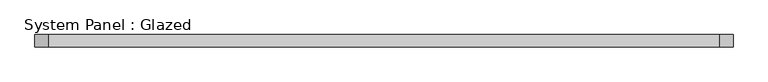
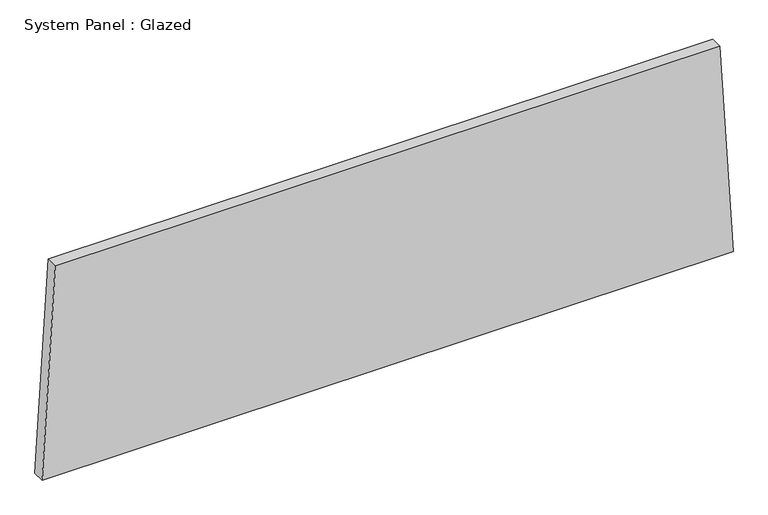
"""IFC4 building model written with IfcOpenShell, lengths in millimetres: plate geometry, System Panel : Glazed."""

from ifc_helpers import new_model, si_unit, frame, origin, place, context, project, spatial, polyline, outline, extrude, source, transform, mapped, element, save


def system_panel_glazed_672f498d(model_context):
    return source(origin(), model_context, "Body", "SweptSolid", [
        extrude(outline(polyline([(0.0, -713.2424026), (0.0, 713.2424026), (457.7399348, 686.1454587), (457.7399348, -686.1454587), (0.0, -713.2424026)])), frame((0.0, 19.05, 0.0), z_axis=(0.0, 1.0, 0.0), x_axis=(0.0, 0.0, 1.0)), (0.0, 0.0, 1.0), 25.4),
    ])


if __name__ == "__main__":
    model = new_model("IFC4")
    model_context = context("Model", 3, world=origin())
    ifc_project = project(units=[si_unit("LENGTHUNIT", "METRE", prefix="MILLI")], contexts=[model_context])
    site = spatial("IfcSite", under=ifc_project)
    building = spatial("IfcBuilding", under=site)
    placement = place(None, origin())
    system_panel_glazed_shape = system_panel_glazed_672f498d(model_context)
    element("IfcPlate", 1, ObjectType="System Panel : Glazed", at=placement, inside=building, context=model_context, shape_type="MappedRepresentation", body=[
        mapped(system_panel_glazed_shape, transform((0.0, 0.0, 0.0), x_axis=(1.0, 0.0, 0.0), y_axis=(0.0, 1.0, 0.0), z_axis=(0.0, 0.0, 1.0))),
    ])
    save(model, "model.ifc")
